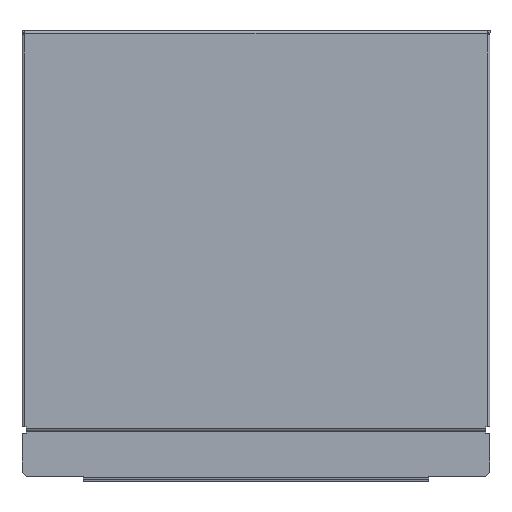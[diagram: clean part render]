
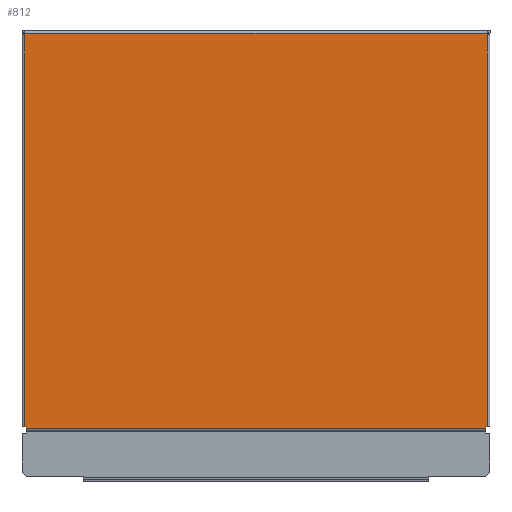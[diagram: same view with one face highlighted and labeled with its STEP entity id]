
A CAD part, front view. The second image highlights one B-rep face of the part: STEP entity #812.
In plain terms, the highlighted planar face has unit normal (0, -1, 0).
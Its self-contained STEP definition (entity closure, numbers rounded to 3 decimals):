
#60 = VERTEX_POINT ( 'NONE', #420 ) ;
#95 = VERTEX_POINT ( 'NONE', #413 ) ;
#259 = CARTESIAN_POINT ( 'NONE',  ( 78.5, -6., 17. ) ) ;
#262 = CARTESIAN_POINT ( 'NONE',  ( -79., -6., 17.5 ) ) ;
#263 = CARTESIAN_POINT ( 'NONE',  ( -78.5, -6., 17. ) ) ;
#267 = CARTESIAN_POINT ( 'NONE',  ( -79., -6., 151.5 ) ) ;
#273 = CARTESIAN_POINT ( 'NONE',  ( 79., -6., 17.5 ) ) ;
#277 = CARTESIAN_POINT ( 'NONE',  ( 78.5, -6., 17.5 ) ) ;
#279 = CARTESIAN_POINT ( 'NONE',  ( -79., -6., 152. ) ) ;
#287 = VERTEX_POINT ( 'NONE', #372 ) ;
#372 = CARTESIAN_POINT ( 'NONE',  ( 79., -6., 152. ) ) ;
#413 = CARTESIAN_POINT ( 'NONE',  ( -78.5, -6., 17.5 ) ) ;
#420 = CARTESIAN_POINT ( 'NONE',  ( 79., -6., 151.5 ) ) ;
#520 = VERTEX_POINT ( 'NONE', #279 ) ;
#522 = VERTEX_POINT ( 'NONE', #277 ) ;
#523 = VERTEX_POINT ( 'NONE', #273 ) ;
#526 = VERTEX_POINT ( 'NONE', #267 ) ;
#530 = VERTEX_POINT ( 'NONE', #263 ) ;
#531 = VERTEX_POINT ( 'NONE', #262 ) ;
#533 = VERTEX_POINT ( 'NONE', #259 ) ;
#669 = EDGE_CURVE ( 'NONE', #520, #526, #2204, .T. ) ;
#670 = EDGE_CURVE ( 'NONE', #520, #287, #2206, .T. ) ;
#671 = EDGE_CURVE ( 'NONE', #287, #60, #2208, .T. ) ;
#672 = EDGE_CURVE ( 'NONE', #60, #523, #2210, .T. ) ;
#673 = EDGE_CURVE ( 'NONE', #522, #523, #2212, .T. ) ;
#674 = EDGE_CURVE ( 'NONE', #533, #522, #2214, .T. ) ;
#675 = EDGE_CURVE ( 'NONE', #530, #533, #2216, .T. ) ;
#676 = EDGE_CURVE ( 'NONE', #95, #530, #2218, .T. ) ;
#677 = EDGE_CURVE ( 'NONE', #531, #95, #2220, .T. ) ;
#679 = EDGE_CURVE ( 'NONE', #526, #531, #2224, .T. ) ;
#709 = AXIS2_PLACEMENT_3D ( 'NONE', #1563, #1562, #1560 ) ;
#812 = ADVANCED_FACE ( 'NONE', ( #2232 ), #1564, .T. ) ;
#1044 = EDGE_LOOP ( 'NONE', ( #1942, #1941, #1940, #1939, #1938, #1937, #1936, #1935, #1934, #1933 ) ) ;
#1560 = DIRECTION ( 'NONE',  ( 1., 0., 0. ) ) ;
#1562 = DIRECTION ( 'NONE',  ( 0., -1., 0. ) ) ;
#1563 = CARTESIAN_POINT ( 'NONE',  ( -80., -6., 17. ) ) ;
#1564 = PLANE ( 'NONE',  #709 ) ;
#1578 = DIRECTION ( 'NONE',  ( 0., 0., -1. ) ) ;
#1579 = CARTESIAN_POINT ( 'NONE',  ( -79., -6., 170.385 ) ) ;
#1583 = DIRECTION ( 'NONE',  ( 1., 0., 0. ) ) ;
#1584 = CARTESIAN_POINT ( 'NONE',  ( -80., -6., 17.5 ) ) ;
#1586 = DIRECTION ( 'NONE',  ( 0., 0., -1. ) ) ;
#1587 = CARTESIAN_POINT ( 'NONE',  ( -78.5, -6., 17.5 ) ) ;
#1589 = DIRECTION ( 'NONE',  ( 1., 0., 0. ) ) ;
#1590 = CARTESIAN_POINT ( 'NONE',  ( -80., -6., 17. ) ) ;
#1592 = DIRECTION ( 'NONE',  ( 0., 0., 1. ) ) ;
#1593 = CARTESIAN_POINT ( 'NONE',  ( 78.5, -6., 15.3 ) ) ;
#1595 = DIRECTION ( 'NONE',  ( 1., 0., 0. ) ) ;
#1596 = CARTESIAN_POINT ( 'NONE',  ( 78.5, -6., 17.5 ) ) ;
#1598 = DIRECTION ( 'NONE',  ( 0., 0., -1. ) ) ;
#1599 = CARTESIAN_POINT ( 'NONE',  ( 79., -6., 170.385 ) ) ;
#1600 = DIRECTION ( 'NONE',  ( 0., 0., -1. ) ) ;
#1601 = CARTESIAN_POINT ( 'NONE',  ( 79., -6., 170.385 ) ) ;
#1602 = DIRECTION ( 'NONE',  ( 1., 0., 0. ) ) ;
#1603 = CARTESIAN_POINT ( 'NONE',  ( -80., -6., 152. ) ) ;
#1605 = DIRECTION ( 'NONE',  ( 0., 0., -1. ) ) ;
#1606 = CARTESIAN_POINT ( 'NONE',  ( -79., -6., 170.385 ) ) ;
#1933 = ORIENTED_EDGE ( 'NONE', *, *, #669, .T. ) ;
#1934 = ORIENTED_EDGE ( 'NONE', *, *, #670, .F. ) ;
#1935 = ORIENTED_EDGE ( 'NONE', *, *, #671, .F. ) ;
#1936 = ORIENTED_EDGE ( 'NONE', *, *, #672, .F. ) ;
#1937 = ORIENTED_EDGE ( 'NONE', *, *, #673, .T. ) ;
#1938 = ORIENTED_EDGE ( 'NONE', *, *, #674, .T. ) ;
#1939 = ORIENTED_EDGE ( 'NONE', *, *, #675, .T. ) ;
#1940 = ORIENTED_EDGE ( 'NONE', *, *, #676, .T. ) ;
#1941 = ORIENTED_EDGE ( 'NONE', *, *, #677, .T. ) ;
#1942 = ORIENTED_EDGE ( 'NONE', *, *, #679, .T. ) ;
#2204 = LINE ( 'NONE', #1606, #2205 ) ;
#2205 = VECTOR ( 'NONE', #1605, 1000. ) ;
#2206 = LINE ( 'NONE', #1603, #2207 ) ;
#2207 = VECTOR ( 'NONE', #1602, 1000. ) ;
#2208 = LINE ( 'NONE', #1601, #2209 ) ;
#2209 = VECTOR ( 'NONE', #1600, 1000. ) ;
#2210 = LINE ( 'NONE', #1599, #2211 ) ;
#2211 = VECTOR ( 'NONE', #1598, 1000. ) ;
#2212 = LINE ( 'NONE', #1596, #2213 ) ;
#2213 = VECTOR ( 'NONE', #1595, 1000. ) ;
#2214 = LINE ( 'NONE', #1593, #2215 ) ;
#2215 = VECTOR ( 'NONE', #1592, 1000. ) ;
#2216 = LINE ( 'NONE', #1590, #2217 ) ;
#2217 = VECTOR ( 'NONE', #1589, 1000. ) ;
#2218 = LINE ( 'NONE', #1587, #2219 ) ;
#2219 = VECTOR ( 'NONE', #1586, 1000. ) ;
#2220 = LINE ( 'NONE', #1584, #2221 ) ;
#2221 = VECTOR ( 'NONE', #1583, 1000. ) ;
#2224 = LINE ( 'NONE', #1579, #2225 ) ;
#2225 = VECTOR ( 'NONE', #1578, 1000. ) ;
#2232 = FACE_OUTER_BOUND ( 'NONE', #1044, .T. ) ;
